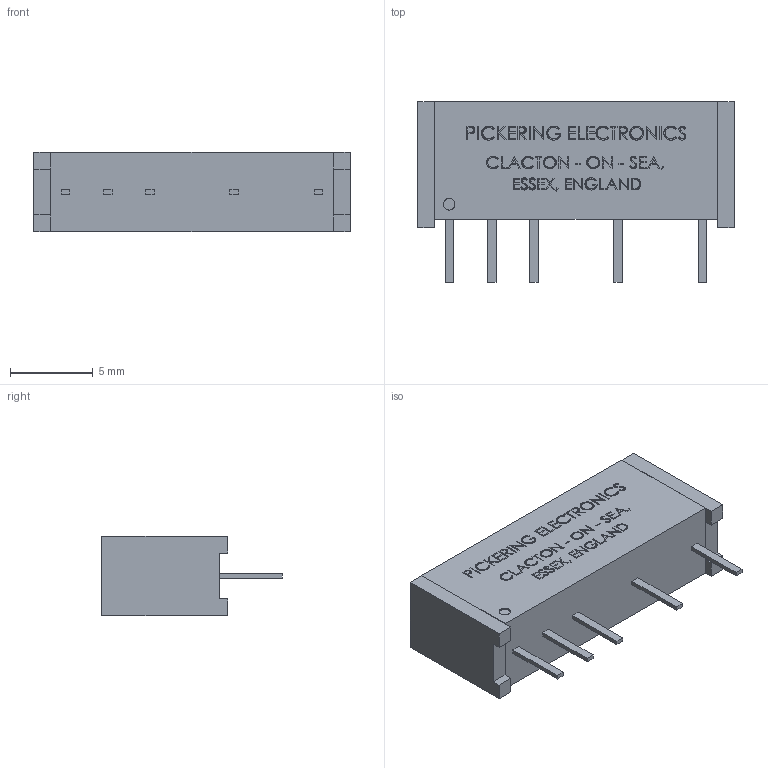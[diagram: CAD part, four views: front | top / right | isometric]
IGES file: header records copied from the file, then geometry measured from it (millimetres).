
Start section: SolidWorks IGES file using analytic representation for surfaces
Global section: file name: T:\Relays in Solidworks\Batch 5\107-1-C-x-xx.IGS; native system: SolidWorks 2009; preprocessor: SolidWorks 2009; author: alex.leming; date: 100630.140826; units: millimetre
Bounding box: 19.1 x 10.9 x 4.8 mm (x, y, z)
Surface area: 724.6 mm2 (no closed solid volume)
Topology: 0 solids, 0 shells, 989 faces, 8262 edges, 8262 vertices
Faces by surface type: bspline 987, revolution 2
